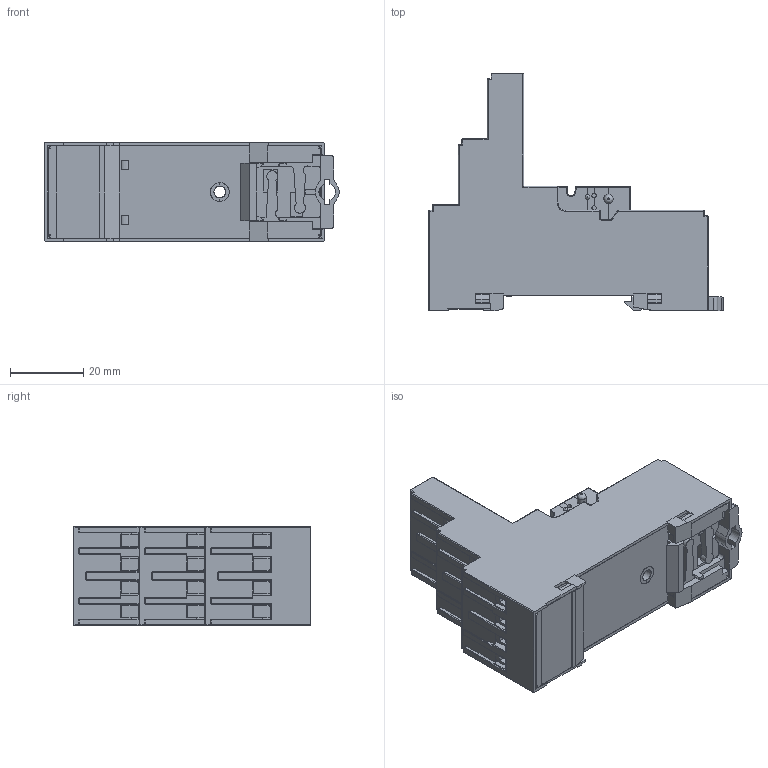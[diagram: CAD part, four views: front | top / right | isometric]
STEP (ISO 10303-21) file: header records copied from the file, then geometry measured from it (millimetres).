
FILE_DESCRIPTION(('STEP AP214'),'2;1');
FILE_NAME('94943_zoccolo-catalogo.stp','2010-09-17T12:05:27',(''),(''),'2007.1.106','THINKDESIGN','');
FILE_SCHEMA(('AUTOMOTIVE_DESIGN'));
Products named in the file (1): None
Bounding box: 80.33 x 64.93 x 27 mm (x, y, z)
Surface area: 24700 mm2 (no closed solid volume)
Topology: 0 solids, 0 shells, 1130 faces, 6265 edges, 6250 vertices
Faces by surface type: plane 746, cylinder 283, bspline 101
Full cylindrical faces by diameter (mm): 1.2 x4, 2.5 x2, 3.2 x1, 3.6 x1, 4.7 x14, 5.3 x14
Entity records: 68654 total; most frequent: CARTESIAN_POINT 23590, DIRECTION 7837, COMPOSITE_CURVE_SEGMENT 6144, TRIMMED_CURVE 5154, VECTOR 4617, LINE 4617, AXIS2_PLACEMENT_3D 1610, STYLED_ITEM 1177
